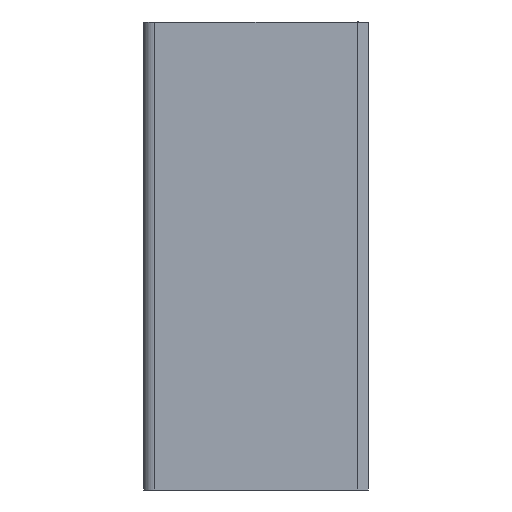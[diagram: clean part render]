
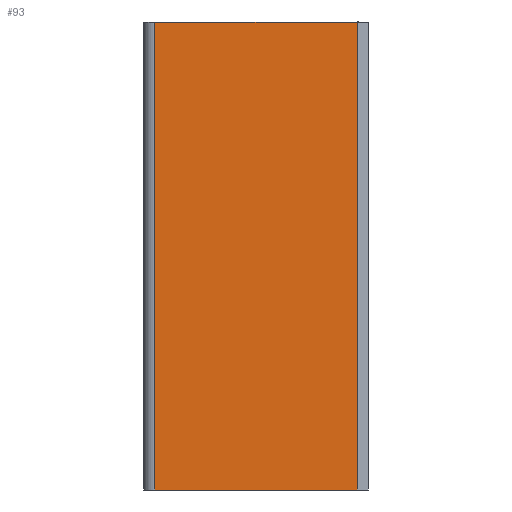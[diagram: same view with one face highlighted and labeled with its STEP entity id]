
A CAD part, left-side view. The second image highlights one B-rep face of the part: STEP entity #93.
In plain terms, the highlighted face is a extrusion surface.
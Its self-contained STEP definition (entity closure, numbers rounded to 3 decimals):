
#54=CARTESIAN_POINT('Control Point',(0.,3.,-125.)) ;
#55=CARTESIAN_POINT('Control Point',(0.,3.,0.)) ;
#59=CARTESIAN_POINT('Line Origine',(0.,30.,0.)) ;
#63=CARTESIAN_POINT('Vertex',(0.,3.,0.)) ;
#65=CARTESIAN_POINT('Vertex',(0.,57.,0.)) ;
#68=CARTESIAN_POINT('Line Origine',(0.,57.,-62.5)) ;
#72=CARTESIAN_POINT('Vertex',(0.,57.,-125.)) ;
#75=CARTESIAN_POINT('Line Origine',(0.,30.,-125.)) ;
#79=CARTESIAN_POINT('Vertex',(0.,3.,-125.)) ;
#82=CARTESIAN_POINT('Line Origine',(0.,3.,-62.5)) ;
#56=DIRECTION('Vector Direction',(0.,1.,0.)) ;
#60=DIRECTION('Vector Direction',(0.,1.,0.)) ;
#69=DIRECTION('Vector Direction',(0.,0.,1.)) ;
#76=DIRECTION('Vector Direction',(0.,1.,0.)) ;
#83=DIRECTION('Vector Direction',(0.,0.,1.)) ;
#88=ORIENTED_EDGE('',*,*,#67,.T.) ;
#89=ORIENTED_EDGE('',*,*,#74,.T.) ;
#90=ORIENTED_EDGE('',*,*,#81,.T.) ;
#91=ORIENTED_EDGE('',*,*,#86,.T.) ;
#57=VECTOR('Extrusion Surface Vector',#56,1.) ;
#61=VECTOR('Line Direction',#60,1.) ;
#70=VECTOR('Line Direction',#69,1.) ;
#77=VECTOR('Line Direction',#76,1.) ;
#84=VECTOR('Line Direction',#83,1.) ;
#93=ADVANCED_FACE('Superficie.1',(#92),#58,.T.) ;
#53=B_SPLINE_CURVE_WITH_KNOTS('',1,(#54,#55),.UNSPECIFIED.,.F.,.U.,(2,2),(-62.5,62.5),.UNSPECIFIED.) ;
#67=EDGE_CURVE('',#64,#66,#62,.T.) ;
#74=EDGE_CURVE('',#66,#73,#71,.F.) ;
#81=EDGE_CURVE('',#73,#80,#78,.F.) ;
#86=EDGE_CURVE('',#80,#64,#85,.T.) ;
#87=EDGE_LOOP('',(#88,#89,#90,#91)) ;
#92=FACE_OUTER_BOUND('',#87,.T.) ;
#62=LINE('Line',#59,#61) ;
#71=LINE('Line',#68,#70) ;
#78=LINE('Line',#75,#77) ;
#85=LINE('Line',#82,#84) ;
#58=SURFACE_OF_LINEAR_EXTRUSION('generated tabulated cylinder',#53,#57) ;
#64=VERTEX_POINT('',#63) ;
#66=VERTEX_POINT('',#65) ;
#73=VERTEX_POINT('',#72) ;
#80=VERTEX_POINT('',#79) ;
